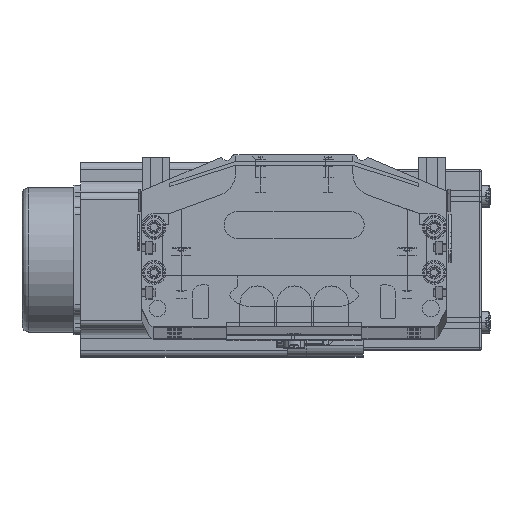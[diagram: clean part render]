
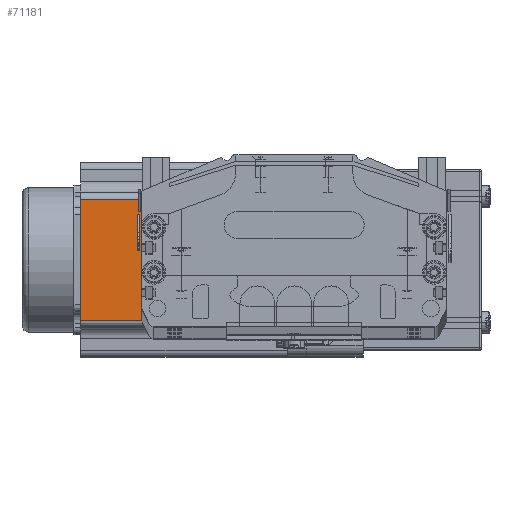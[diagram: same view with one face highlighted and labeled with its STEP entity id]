
A CAD part, top view. The second image highlights one B-rep face of the part: STEP entity #71181.
In plain terms, the highlighted planar face has unit normal (0, 0, 1) as drawn and (-1, 0, 0) by its records, which use the part's own axes.
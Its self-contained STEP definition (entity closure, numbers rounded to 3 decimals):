
#44971 = CARTESIAN_POINT ( 'NONE',  ( 0., 69.74, 0. ) ) ;
#45528 = CARTESIAN_POINT ( 'NONE',  ( 0., 69.74, 91.5 ) ) ;
#48198 = VECTOR ( 'NONE', #48352, 1000. ) ;
#48352 = DIRECTION ( 'NONE',  ( 0., -1., 0. ) ) ;
#48665 = CARTESIAN_POINT ( 'NONE',  ( 0., 0., 91.5 ) ) ;
#48666 = LINE ( 'NONE', #48665, #48198 ) ;
#49162 = CARTESIAN_POINT ( 'NONE',  ( 0., 16.16, 0. ) ) ;
#49163 = DIRECTION ( 'NONE',  ( 1., 0., 0. ) ) ;
#49164 = VECTOR ( 'NONE', #49175, 1000. ) ;
#49175 = DIRECTION ( 'NONE',  ( 0., 0., -1. ) ) ;
#49178 = PLANE ( 'NONE',  #49194 ) ;
#49179 = CARTESIAN_POINT ( 'NONE',  ( 0., 0., 91.5 ) ) ;
#49180 = FACE_OUTER_BOUND ( 'NONE', #71032, .T. ) ;
#49181 = DIRECTION ( 'NONE',  ( 0., 0., -1. ) ) ;
#49189 = CARTESIAN_POINT ( 'NONE',  ( 0., 69.74, 91.5 ) ) ;
#49190 = LINE ( 'NONE', #49189, #49164 ) ;
#49194 = AXIS2_PLACEMENT_3D ( 'NONE', #49179, #49163, #49181 ) ;
#49241 = CARTESIAN_POINT ( 'NONE',  ( 0., 16.16, 91.5 ) ) ;
#49242 = LINE ( 'NONE', #49241, #49271 ) ;
#49270 = DIRECTION ( 'NONE',  ( 0., 0., 1. ) ) ;
#49271 = VECTOR ( 'NONE', #49270, 1000. ) ;
#49302 = LINE ( 'NONE', #49341, #49340 ) ;
#49327 = CARTESIAN_POINT ( 'NONE',  ( 0., 16.16, 91.5 ) ) ;
#49339 = DIRECTION ( 'NONE',  ( 0., -1., 0. ) ) ;
#49340 = VECTOR ( 'NONE', #49339, 1000. ) ;
#49341 = CARTESIAN_POINT ( 'NONE',  ( 0., 0., 0. ) ) ;
#71031 = ORIENTED_EDGE ( 'NONE', *, *, #71134, .F. ) ;
#71032 = EDGE_LOOP ( 'NONE', ( #71176, #71133, #71031, #71034 ) ) ;
#71034 = ORIENTED_EDGE ( 'NONE', *, *, #71193, .T. ) ;
#71035 = VERTEX_POINT ( 'NONE', #44971 ) ;
#71039 = VERTEX_POINT ( 'NONE', #45528 ) ;
#71133 = ORIENTED_EDGE ( 'NONE', *, *, #71243, .T. ) ;
#71134 = EDGE_CURVE ( 'NONE', #71039, #71201, #48666, .T. ) ;
#71176 = ORIENTED_EDGE ( 'NONE', *, *, #71222, .T. ) ;
#71181 = ADVANCED_FACE ( 'NONE', ( #49180 ), #49178, .F. ) ;
#71191 = VERTEX_POINT ( 'NONE', #49162 ) ;
#71193 = EDGE_CURVE ( 'NONE', #71039, #71035, #49190, .T. ) ;
#71201 = VERTEX_POINT ( 'NONE', #49327 ) ;
#71222 = EDGE_CURVE ( 'NONE', #71035, #71191, #49302, .T. ) ;
#71243 = EDGE_CURVE ( 'NONE', #71191, #71201, #49242, .T. ) ;
